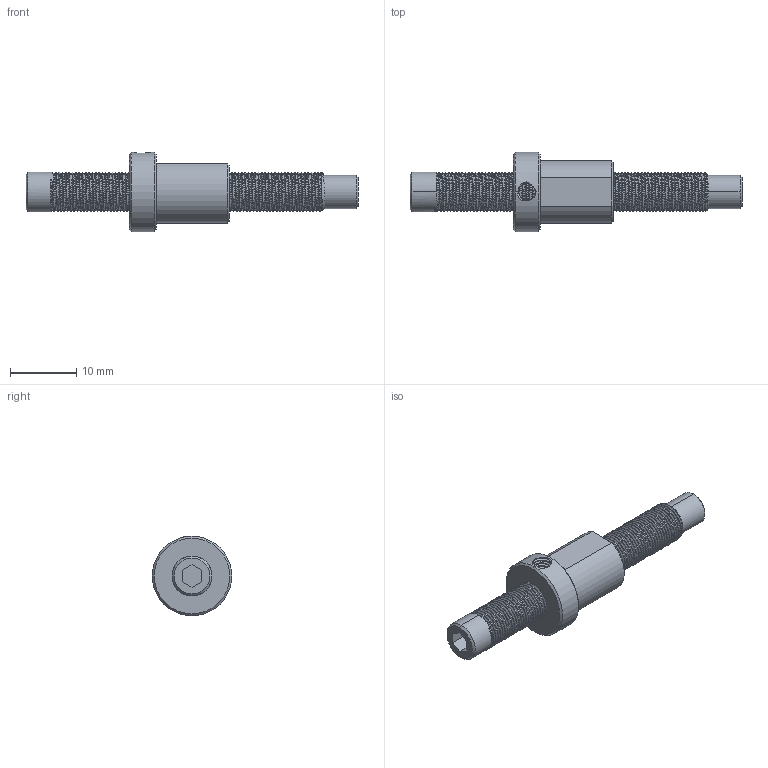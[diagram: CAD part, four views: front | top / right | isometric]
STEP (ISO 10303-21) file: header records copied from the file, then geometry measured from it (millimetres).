
FILE_DESCRIPTION((''),'2;1');
FILE_NAME('M605-L50-A_ASM','2024-11-05T17:37:33',('R&D'),(''),'CREO PARAMETRIC BY PTC INC, 2021063','CREO PARAMETRIC BY PTC INC, 2021063','');
FILE_SCHEMA(('CONFIG_CONTROL_DESIGN'));
Products named in the file (3): M605-L50-A; M605-L-A; M605-L50-A_ASM
Assembly tree (2 placements, depth 2):
  M605-L50-A_ASM
    M605-L50-A
    M605-L-A
Bounding box: 50 x 12 x 12 mm (x, y, z)
Volume: 2020.1 mm3; surface area: 2494.8 mm2
Topology: 2 solids, 2 shells, 400 faces, 1070 edges, 674 vertices
Faces by surface type: cylinder 240, bspline 135, plane 14, cone 11
Entity records: 37551 total; most frequent: CARTESIAN_POINT 29317, ORIENTED_EDGE 2140, EDGE_CURVE 1070, DIRECTION 944, B_SPLINE_CURVE_WITH_KNOTS 692, VERTEX_POINT 674, EDGE_LOOP 404, FACE_OUTER_BOUND 400
